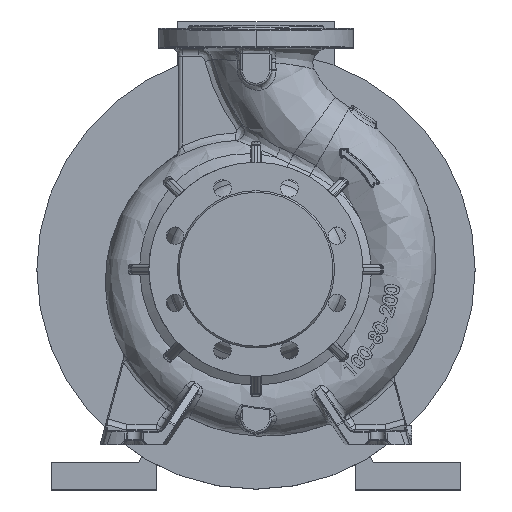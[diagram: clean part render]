
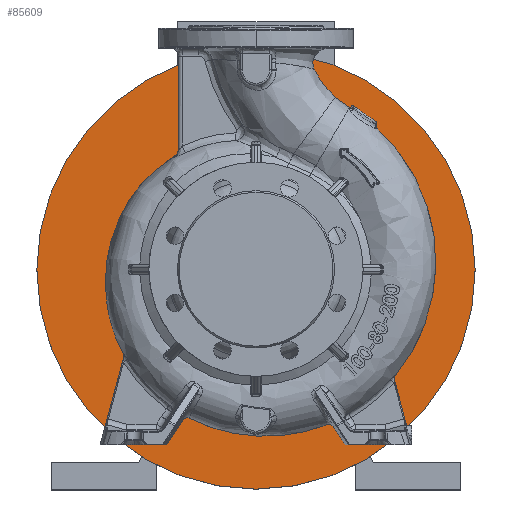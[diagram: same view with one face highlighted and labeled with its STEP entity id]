
A CAD part, top view. The second image highlights one B-rep face of the part: STEP entity #85609.
In plain terms, the highlighted planar face has unit normal (0, 0, 1).
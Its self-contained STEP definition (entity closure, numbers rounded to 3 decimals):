
#3274 = ORIENTED_EDGE ( 'NONE', *, *, #55837, .T. ) ;
#4517 = EDGE_CURVE ( 'NONE', #86515, #73558, #39825, .T. ) ;
#8243 = FACE_BOUND ( 'NONE', #22731, .T. ) ;
#11357 = CIRCLE ( 'NONE', #55509, 125. ) ;
#15206 = CIRCLE ( 'NONE', #65327, 225. ) ;
#17218 = DIRECTION ( 'NONE',  ( 1., 0., 0. ) ) ;
#18839 = DIRECTION ( 'NONE',  ( -1., 0., 0. ) ) ;
#19354 = VERTEX_POINT ( 'NONE', #88370 ) ;
#21853 = CARTESIAN_POINT ( 'NONE',  ( 0., 0., -273.8 ) ) ;
#22731 = EDGE_LOOP ( 'NONE', ( #55532, #53619 ) ) ;
#24819 = CARTESIAN_POINT ( 'NONE',  ( 0., 0., -273.8 ) ) ;
#26208 = CARTESIAN_POINT ( 'NONE',  ( 0., 0., -273.8 ) ) ;
#29875 = DIRECTION ( 'NONE',  ( 0., 0., 1. ) ) ;
#36008 = CARTESIAN_POINT ( 'NONE',  ( 0., 125., -273.8 ) ) ;
#36885 = FACE_OUTER_BOUND ( 'NONE', #109292, .T. ) ;
#39825 = CIRCLE ( 'NONE', #81477, 125. ) ;
#42316 = DIRECTION ( 'NONE',  ( 1., 0., 0. ) ) ;
#43117 = CARTESIAN_POINT ( 'NONE',  ( 0., 0., -273.8 ) ) ;
#52219 = CARTESIAN_POINT ( 'NONE',  ( 225., 0., -273.8 ) ) ;
#53619 = ORIENTED_EDGE ( 'NONE', *, *, #4517, .F. ) ;
#54373 = VERTEX_POINT ( 'NONE', #52219 ) ;
#55509 = AXIS2_PLACEMENT_3D ( 'NONE', #26208, #78262, #87043 ) ;
#55532 = ORIENTED_EDGE ( 'NONE', *, *, #105505, .F. ) ;
#55837 = EDGE_CURVE ( 'NONE', #19354, #54373, #62093, .T. ) ;
#56925 = DIRECTION ( 'NONE',  ( 1., 0., 0. ) ) ;
#60584 = DIRECTION ( 'NONE',  ( 0., 0., 1. ) ) ;
#62093 = CIRCLE ( 'NONE', #70893, 225. ) ;
#65277 = ORIENTED_EDGE ( 'NONE', *, *, #76136, .T. ) ;
#65327 = AXIS2_PLACEMENT_3D ( 'NONE', #43117, #60584, #17218 ) ;
#70893 = AXIS2_PLACEMENT_3D ( 'NONE', #24819, #94371, #42316 ) ;
#70958 = PLANE ( 'NONE',  #72535 ) ;
#71313 = DIRECTION ( 'NONE',  ( 0., 0., -1. ) ) ;
#72535 = AXIS2_PLACEMENT_3D ( 'NONE', #36008, #71313, #18839 ) ;
#73558 = VERTEX_POINT ( 'NONE', #103759 ) ;
#76136 = EDGE_CURVE ( 'NONE', #54373, #19354, #15206, .T. ) ;
#78262 = DIRECTION ( 'NONE',  ( 0., 0., 1. ) ) ;
#81477 = AXIS2_PLACEMENT_3D ( 'NONE', #21853, #29875, #56925 ) ;
#85609 = ADVANCED_FACE ( 'NONE', ( #8243, #36885 ), #70958, .F. ) ;
#86515 = VERTEX_POINT ( 'NONE', #95919 ) ;
#87043 = DIRECTION ( 'NONE',  ( 1., 0., 0. ) ) ;
#88370 = CARTESIAN_POINT ( 'NONE',  ( -225., 0., -273.8 ) ) ;
#94371 = DIRECTION ( 'NONE',  ( 0., 0., 1. ) ) ;
#95919 = CARTESIAN_POINT ( 'NONE',  ( -125., 0., -273.8 ) ) ;
#103759 = CARTESIAN_POINT ( 'NONE',  ( 125., 0., -273.8 ) ) ;
#105505 = EDGE_CURVE ( 'NONE', #73558, #86515, #11357, .T. ) ;
#109292 = EDGE_LOOP ( 'NONE', ( #65277, #3274 ) ) ;
